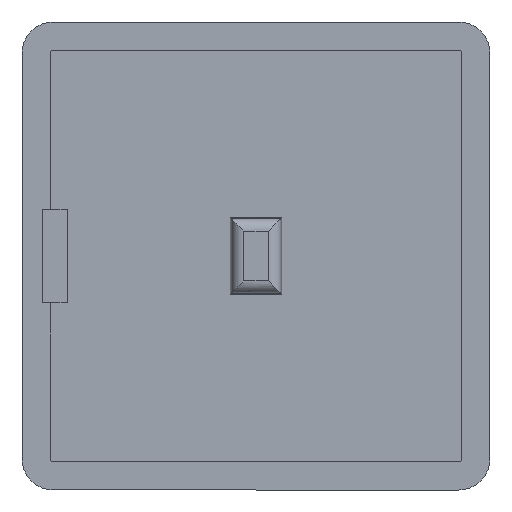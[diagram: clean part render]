
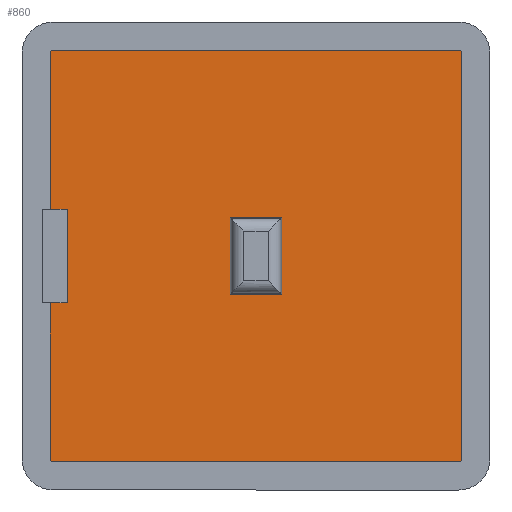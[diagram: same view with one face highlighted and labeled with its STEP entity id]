
A CAD part, front view. The second image highlights one B-rep face of the part: STEP entity #860.
In plain terms, the highlighted planar face has unit normal (0, -1, 0).
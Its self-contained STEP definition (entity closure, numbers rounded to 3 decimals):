
#1 = LINE ( 'NONE', #994, #768 ) ;
#2 = ORIENTED_EDGE ( 'NONE', *, *, #78, .T. ) ;
#3 = CARTESIAN_POINT ( 'NONE',  ( 13., -0.5, 13. ) ) ;
#4 = EDGE_CURVE ( 'NONE', #841, #1160, #1179, .T. ) ;
#6 = DIRECTION ( 'NONE',  ( 0., 0., -1. ) ) ;
#11 = CIRCLE ( 'NONE', #671, 0.2 ) ;
#22 = DIRECTION ( 'NONE',  ( -1., 0., 0. ) ) ;
#47 = CARTESIAN_POINT ( 'NONE',  ( -13., -0.5, 13.2 ) ) ;
#53 = VERTEX_POINT ( 'NONE', #772 ) ;
#57 = CARTESIAN_POINT ( 'NONE',  ( -13., -0.5, 13. ) ) ;
#63 = LINE ( 'NONE', #228, #1063 ) ;
#74 = EDGE_CURVE ( 'NONE', #170, #290, #902, .T. ) ;
#78 = EDGE_CURVE ( 'NONE', #399, #530, #88, .T. ) ;
#88 = LINE ( 'NONE', #230, #378 ) ;
#103 = DIRECTION ( 'NONE',  ( 0., 0., -1. ) ) ;
#106 = VECTOR ( 'NONE', #322, 1000. ) ;
#113 = EDGE_CURVE ( 'NONE', #709, #1149, #614, .T. ) ;
#118 = CARTESIAN_POINT ( 'NONE',  ( -13.2, -0.5, 13. ) ) ;
#124 = FACE_BOUND ( 'NONE', #678, .T. ) ;
#141 = CARTESIAN_POINT ( 'NONE',  ( -12.1, -0.5, 3. ) ) ;
#148 = CARTESIAN_POINT ( 'NONE',  ( -13.2, -0.5, -13. ) ) ;
#154 = CARTESIAN_POINT ( 'NONE',  ( -13.2, -0.5, 13. ) ) ;
#156 = VERTEX_POINT ( 'NONE', #148 ) ;
#165 = ORIENTED_EDGE ( 'NONE', *, *, #400, .T. ) ;
#169 = ORIENTED_EDGE ( 'NONE', *, *, #728, .F. ) ;
#170 = VERTEX_POINT ( 'NONE', #1224 ) ;
#174 = EDGE_CURVE ( 'NONE', #53, #156, #1052, .T. ) ;
#179 = DIRECTION ( 'NONE',  ( 1., 0., 0. ) ) ;
#180 = ORIENTED_EDGE ( 'NONE', *, *, #113, .T. ) ;
#212 = ORIENTED_EDGE ( 'NONE', *, *, #1048, .T. ) ;
#217 = AXIS2_PLACEMENT_3D ( 'NONE', #313, #998, #415 ) ;
#228 = CARTESIAN_POINT ( 'NONE',  ( 13.2, -0.5, 13. ) ) ;
#230 = CARTESIAN_POINT ( 'NONE',  ( -13.2, -0.5, 13. ) ) ;
#243 = DIRECTION ( 'NONE',  ( 0., 0., 1. ) ) ;
#256 = CIRCLE ( 'NONE', #796, 0.2 ) ;
#258 = VERTEX_POINT ( 'NONE', #419 ) ;
#274 = VECTOR ( 'NONE', #22, 1000. ) ;
#276 = ORIENTED_EDGE ( 'NONE', *, *, #389, .F. ) ;
#290 = VERTEX_POINT ( 'NONE', #924 ) ;
#293 = VECTOR ( 'NONE', #448, 1000. ) ;
#294 = CARTESIAN_POINT ( 'NONE',  ( 1.65, -0.5, 2.45 ) ) ;
#295 = LINE ( 'NONE', #294, #795 ) ;
#301 = DIRECTION ( 'NONE',  ( 0., -1., 0. ) ) ;
#313 = CARTESIAN_POINT ( 'NONE',  ( 13., -0.5, -13. ) ) ;
#316 = EDGE_CURVE ( 'NONE', #1075, #1051, #668, .T. ) ;
#322 = DIRECTION ( 'NONE',  ( 1., 0., 0. ) ) ;
#344 = LINE ( 'NONE', #821, #106 ) ;
#356 = CARTESIAN_POINT ( 'NONE',  ( -1.65, -0.5, 2.45 ) ) ;
#375 = ORIENTED_EDGE ( 'NONE', *, *, #174, .T. ) ;
#378 = VECTOR ( 'NONE', #1002, 1000. ) ;
#389 = EDGE_CURVE ( 'NONE', #453, #170, #295, .T. ) ;
#391 = EDGE_CURVE ( 'NONE', #1051, #530, #868, .T. ) ;
#393 = AXIS2_PLACEMENT_3D ( 'NONE', #897, #301, #985 ) ;
#399 = VERTEX_POINT ( 'NONE', #118 ) ;
#400 = EDGE_CURVE ( 'NONE', #1160, #464, #539, .T. ) ;
#406 = ORIENTED_EDGE ( 'NONE', *, *, #431, .T. ) ;
#412 = EDGE_LOOP ( 'NONE', ( #1041, #406, #375, #212, #1251, #165, #594, #595, #180, #1202, #2, #504 ) ) ;
#413 = CARTESIAN_POINT ( 'NONE',  ( 13., -0.5, -13.2 ) ) ;
#415 = DIRECTION ( 'NONE',  ( 0., 0., -1. ) ) ;
#419 = CARTESIAN_POINT ( 'NONE',  ( -1.65, -0.5, -2.45 ) ) ;
#420 = AXIS2_PLACEMENT_3D ( 'NONE', #57, #647, #930 ) ;
#422 = VECTOR ( 'NONE', #243, 1000. ) ;
#431 = EDGE_CURVE ( 'NONE', #1075, #53, #1, .T. ) ;
#435 = CARTESIAN_POINT ( 'NONE',  ( -13., -0.5, -13.2 ) ) ;
#448 = DIRECTION ( 'NONE',  ( 0., 0., -1. ) ) ;
#453 = VERTEX_POINT ( 'NONE', #519 ) ;
#464 = VERTEX_POINT ( 'NONE', #1090 ) ;
#479 = ORIENTED_EDGE ( 'NONE', *, *, #1000, .F. ) ;
#504 = ORIENTED_EDGE ( 'NONE', *, *, #391, .F. ) ;
#509 = CARTESIAN_POINT ( 'NONE',  ( -13., -0.5, -13. ) ) ;
#516 = DIRECTION ( 'NONE',  ( 0., 0., 1. ) ) ;
#519 = CARTESIAN_POINT ( 'NONE',  ( 1.65, -0.5, -2.45 ) ) ;
#530 = VERTEX_POINT ( 'NONE', #642 ) ;
#539 = CIRCLE ( 'NONE', #217, 0.2 ) ;
#551 = VECTOR ( 'NONE', #6, 1000. ) ;
#573 = ORIENTED_EDGE ( 'NONE', *, *, #74, .F. ) ;
#594 = ORIENTED_EDGE ( 'NONE', *, *, #746, .T. ) ;
#595 = ORIENTED_EDGE ( 'NONE', *, *, #1064, .T. ) ;
#603 = CARTESIAN_POINT ( 'NONE',  ( -1.65, -0.5, 2.45 ) ) ;
#611 = DIRECTION ( 'NONE',  ( 0., 0., -1. ) ) ;
#614 = LINE ( 'NONE', #47, #1066 ) ;
#623 = CARTESIAN_POINT ( 'NONE',  ( 13., -0.5, 13.2 ) ) ;
#628 = DIRECTION ( 'NONE',  ( 0., 0., 1. ) ) ;
#642 = CARTESIAN_POINT ( 'NONE',  ( -13.2, -0.5, 3. ) ) ;
#647 = DIRECTION ( 'NONE',  ( 0., -1., 0. ) ) ;
#668 = LINE ( 'NONE', #141, #422 ) ;
#671 = AXIS2_PLACEMENT_3D ( 'NONE', #509, #1182, #611 ) ;
#678 = EDGE_LOOP ( 'NONE', ( #169, #479, #573, #276 ) ) ;
#699 = DIRECTION ( 'NONE',  ( 0., -1., 0. ) ) ;
#709 = VERTEX_POINT ( 'NONE', #623 ) ;
#712 = DIRECTION ( 'NONE',  ( -1., 0., 0. ) ) ;
#719 = DIRECTION ( 'NONE',  ( -1., 0., 0. ) ) ;
#728 = EDGE_CURVE ( 'NONE', #258, #453, #344, .T. ) ;
#732 = DIRECTION ( 'NONE',  ( -1., 0., 0. ) ) ;
#746 = EDGE_CURVE ( 'NONE', #464, #905, #63, .T. ) ;
#768 = VECTOR ( 'NONE', #712, 1000. ) ;
#772 = CARTESIAN_POINT ( 'NONE',  ( -13.2, -0.5, -3. ) ) ;
#795 = VECTOR ( 'NONE', #516, 1000. ) ;
#796 = AXIS2_PLACEMENT_3D ( 'NONE', #3, #699, #103 ) ;
#803 = LINE ( 'NONE', #603, #551 ) ;
#813 = CARTESIAN_POINT ( 'NONE',  ( -13., -0.5, 13.2 ) ) ;
#821 = CARTESIAN_POINT ( 'NONE',  ( -1.65, -0.5, -2.45 ) ) ;
#841 = VERTEX_POINT ( 'NONE', #435 ) ;
#843 = PLANE ( 'NONE',  #420 ) ;
#851 = CARTESIAN_POINT ( 'NONE',  ( 13.2, -0.5, 13. ) ) ;
#860 = ADVANCED_FACE ( 'NONE', ( #1158, #124 ), #843, .T. ) ;
#868 = LINE ( 'NONE', #1186, #274 ) ;
#876 = VECTOR ( 'NONE', #719, 1000. ) ;
#897 = CARTESIAN_POINT ( 'NONE',  ( -13., -0.5, 13. ) ) ;
#900 = CARTESIAN_POINT ( 'NONE',  ( -12.1, -0.5, 3. ) ) ;
#902 = LINE ( 'NONE', #356, #876 ) ;
#905 = VERTEX_POINT ( 'NONE', #851 ) ;
#924 = CARTESIAN_POINT ( 'NONE',  ( -1.65, -0.5, 2.45 ) ) ;
#930 = DIRECTION ( 'NONE',  ( 0., 0., -1. ) ) ;
#938 = VECTOR ( 'NONE', #179, 1000. ) ;
#984 = CARTESIAN_POINT ( 'NONE',  ( -12.1, -0.5, -3. ) ) ;
#985 = DIRECTION ( 'NONE',  ( 0., 0., -1. ) ) ;
#994 = CARTESIAN_POINT ( 'NONE',  ( -13., -0.5, -3. ) ) ;
#998 = DIRECTION ( 'NONE',  ( 0., -1., 0. ) ) ;
#1000 = EDGE_CURVE ( 'NONE', #290, #258, #803, .T. ) ;
#1002 = DIRECTION ( 'NONE',  ( 0., 0., -1. ) ) ;
#1005 = EDGE_CURVE ( 'NONE', #1149, #399, #1059, .T. ) ;
#1041 = ORIENTED_EDGE ( 'NONE', *, *, #316, .F. ) ;
#1048 = EDGE_CURVE ( 'NONE', #156, #841, #11, .T. ) ;
#1051 = VERTEX_POINT ( 'NONE', #900 ) ;
#1052 = LINE ( 'NONE', #154, #293 ) ;
#1059 = CIRCLE ( 'NONE', #393, 0.2 ) ;
#1063 = VECTOR ( 'NONE', #628, 1000. ) ;
#1064 = EDGE_CURVE ( 'NONE', #905, #709, #256, .T. ) ;
#1066 = VECTOR ( 'NONE', #732, 1000. ) ;
#1075 = VERTEX_POINT ( 'NONE', #984 ) ;
#1090 = CARTESIAN_POINT ( 'NONE',  ( 13.2, -0.5, -13. ) ) ;
#1149 = VERTEX_POINT ( 'NONE', #813 ) ;
#1151 = CARTESIAN_POINT ( 'NONE',  ( -13., -0.5, -13.2 ) ) ;
#1158 = FACE_OUTER_BOUND ( 'NONE', #412, .T. ) ;
#1160 = VERTEX_POINT ( 'NONE', #413 ) ;
#1179 = LINE ( 'NONE', #1151, #938 ) ;
#1182 = DIRECTION ( 'NONE',  ( 0., -1., 0. ) ) ;
#1186 = CARTESIAN_POINT ( 'NONE',  ( -13.7, -0.5, 3. ) ) ;
#1202 = ORIENTED_EDGE ( 'NONE', *, *, #1005, .T. ) ;
#1224 = CARTESIAN_POINT ( 'NONE',  ( 1.65, -0.5, 2.45 ) ) ;
#1251 = ORIENTED_EDGE ( 'NONE', *, *, #4, .T. ) ;
